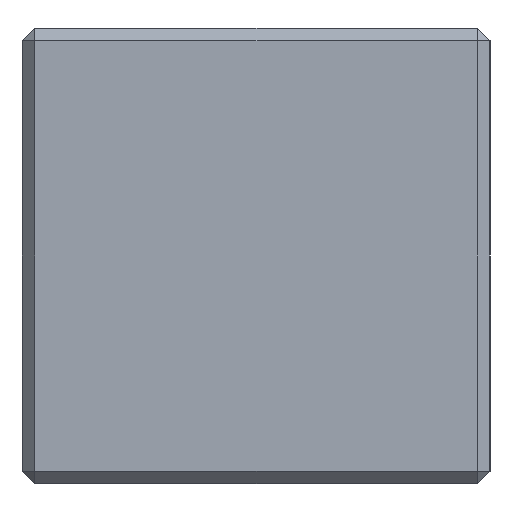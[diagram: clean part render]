
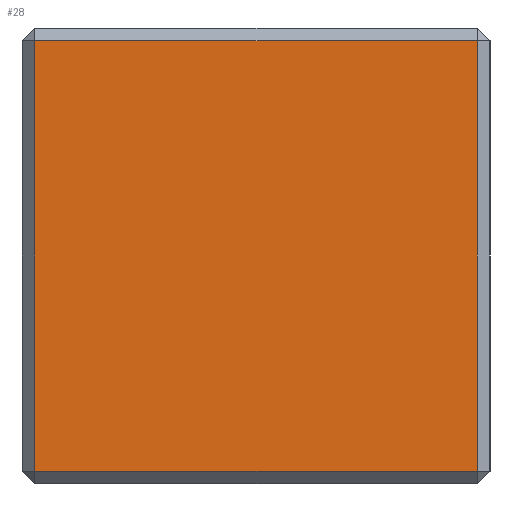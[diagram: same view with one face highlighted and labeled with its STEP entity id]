
A CAD part, left-side view. The second image highlights one B-rep face of the part: STEP entity #28.
In plain terms, the highlighted planar face has unit normal (-1, 0, 0).
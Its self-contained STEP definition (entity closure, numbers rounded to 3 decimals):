
#16 = EDGE_LOOP ( 'NONE', ( #24, #2055, #2052, #2056 ) ) ;
#24 = ORIENTED_EDGE ( 'NONE', *, *, #29, .T. ) ;
#26 = VERTEX_POINT ( 'NONE', #170 ) ;
#28 = ADVANCED_FACE ( 'NONE', ( #169 ), #168, .F. ) ;
#29 = EDGE_CURVE ( 'NONE', #26, #2057, #163, .T. ) ;
#160 = DIRECTION ( 'NONE',  ( 0., -1., 0. ) ) ;
#161 = VECTOR ( 'NONE', #160, 1000. ) ;
#162 = CARTESIAN_POINT ( 'NONE',  ( -30., 21., -17. ) ) ;
#163 = LINE ( 'NONE', #162, #161 ) ;
#164 = DIRECTION ( 'NONE',  ( 0., 1., 0. ) ) ;
#165 = DIRECTION ( 'NONE',  ( 1., 0., 0. ) ) ;
#166 = AXIS2_PLACEMENT_3D ( 'NONE', #167, #165, #164 ) ;
#167 = CARTESIAN_POINT ( 'NONE',  ( -30., 21., 18. ) ) ;
#168 = PLANE ( 'NONE',  #166 ) ;
#169 = FACE_OUTER_BOUND ( 'NONE', #16, .T. ) ;
#170 = CARTESIAN_POINT ( 'NONE',  ( -30., 20., -17. ) ) ;
#1305 = DIRECTION ( 'NONE',  ( 0., 0., -1. ) ) ;
#1306 = VECTOR ( 'NONE', #1305, 1000. ) ;
#1307 = CARTESIAN_POINT ( 'NONE',  ( -30., 20., 18. ) ) ;
#1308 = LINE ( 'NONE', #1307, #1306 ) ;
#1973 = EDGE_CURVE ( 'NONE', #2054, #26, #1308, .T. ) ;
#2052 = ORIENTED_EDGE ( 'NONE', *, *, #2053, .T. ) ;
#2053 = EDGE_CURVE ( 'NONE', #2059, #2054, #2170, .T. ) ;
#2054 = VERTEX_POINT ( 'NONE', #2166 ) ;
#2055 = ORIENTED_EDGE ( 'NONE', *, *, #2058, .T. ) ;
#2056 = ORIENTED_EDGE ( 'NONE', *, *, #1973, .T. ) ;
#2057 = VERTEX_POINT ( 'NONE', #2165 ) ;
#2058 = EDGE_CURVE ( 'NONE', #2057, #2059, #2164, .T. ) ;
#2059 = VERTEX_POINT ( 'NONE', #2160 ) ;
#2160 = CARTESIAN_POINT ( 'NONE',  ( -30., -15., 17. ) ) ;
#2161 = DIRECTION ( 'NONE',  ( 0., 0., 1. ) ) ;
#2162 = VECTOR ( 'NONE', #2161, 1000. ) ;
#2163 = CARTESIAN_POINT ( 'NONE',  ( -30., -15., 18. ) ) ;
#2164 = LINE ( 'NONE', #2163, #2162 ) ;
#2165 = CARTESIAN_POINT ( 'NONE',  ( -30., -15., -17. ) ) ;
#2166 = CARTESIAN_POINT ( 'NONE',  ( -30., 20., 17. ) ) ;
#2167 = DIRECTION ( 'NONE',  ( 0., 1., 0. ) ) ;
#2168 = VECTOR ( 'NONE', #2167, 1000. ) ;
#2169 = CARTESIAN_POINT ( 'NONE',  ( -30., 21., 17. ) ) ;
#2170 = LINE ( 'NONE', #2169, #2168 ) ;
